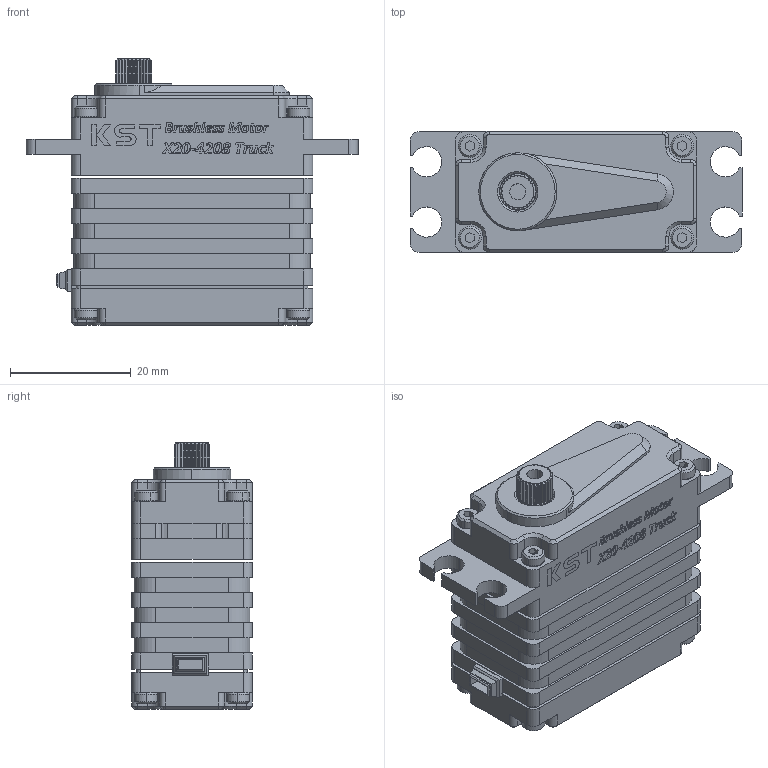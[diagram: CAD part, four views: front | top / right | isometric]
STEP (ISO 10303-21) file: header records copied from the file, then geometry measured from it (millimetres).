
FILE_DESCRIPTION (( 'STEP AP214' ), '1' );
FILE_NAME ('X20-4208 Truck_DM.STEP', '2022-06-13T08:02:37', ( '微软用户' ), ( '微软中国' ), 'SwSTEP 2.0', 'SolidWorks 2016', '' );
FILE_SCHEMA (( 'AUTOMOTIVE_DESIGN' ));
Length unit declared in the file: millimetre
Products named in the file (1): X20-4208 Truck_DM
Bounding box: 55 x 20 x 44.1 mm (x, y, z)
Surface area: 8059.3 mm2 (no closed solid volume)
Topology: 0 solids, 29 shells, 773 faces, 3472 edges, 2681 vertices
Faces by surface type: plane 436, cylinder 170, bspline 95, cone 72
Entity records: 58060 total; most frequent: CARTESIAN_POINT 24453, ORIENTED_EDGE 5170, DIRECTION 4064, EDGE_CURVE 3472, VERTEX_POINT 2681, LINE 1732, VECTOR 1732, B_SPLINE_CURVE_WITH_KNOTS 1243
